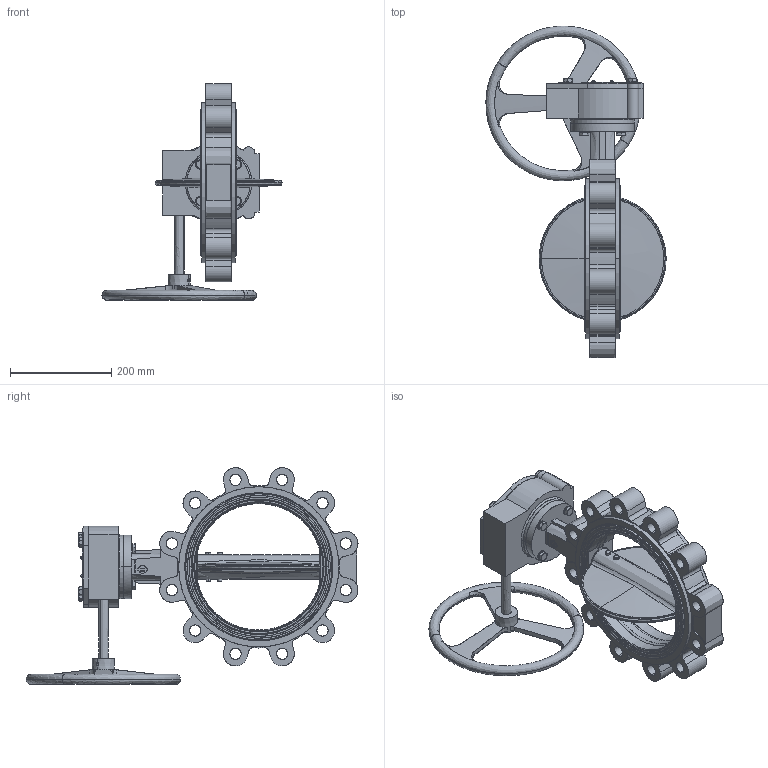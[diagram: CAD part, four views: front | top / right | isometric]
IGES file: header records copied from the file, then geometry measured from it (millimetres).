
Start section: SolidWorks IGES file using analytic representation for surfaces
Global section: file name: H:\BE FABRICATION\BE SERIE\VP\VP SERIE\F072 VPG\plan 3D\VPG-08\LUG\DN250\PN16\VPG464X-08XX0250.igs; native system: SolidWorks 2020; preprocessor: SolidWorks 2020; author: k.gigout; date: 220630.101249; units: millimetre
Bounding box: 355.2 x 654.42 x 427.01 mm (x, y, z)
Surface area: 737947.4 mm2 (no closed solid volume)
Topology: 0 solids, 0 shells, 821 faces, 24643 edges, 24641 vertices
Faces by surface type: bspline 551, revolution 270
